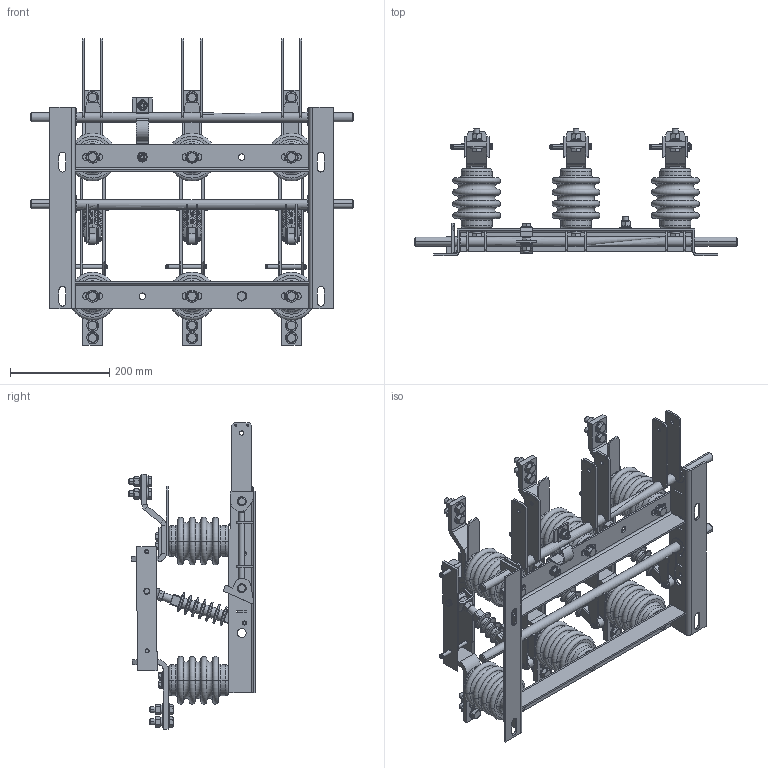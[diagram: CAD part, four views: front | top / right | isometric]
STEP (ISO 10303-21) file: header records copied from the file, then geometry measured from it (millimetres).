
FILE_DESCRIPTION (( 'STEP AP214' ), '1' );
FILE_NAME ('Ðàçúåäèíèòåëü âûñîêîâîëüòíûé ÐÂÇ-101000-II-È2-Ó3.STEP', '2023-02-03T10:50:53', ( '' ), ( '' ), 'SwSTEP 2.0', 'SolidWorks 2018', '' );
FILE_SCHEMA (( 'AUTOMOTIVE_DESIGN' ));
Length unit declared in the file: millimetre
Products named in the file (1): Ðàçúåäèíèòåëü âûñîêîâîëüòíûé ÐÂÇ-101000-II-È2-Ó3
Bounding box: 650 x 256.27 x 617.51 mm (x, y, z)
Volume: 6246029.8 mm3; surface area: 1273893.2 mm2
Topology: 1 solids, 18 shells, 2680 faces, 6397 edges, 3965 vertices
Faces by surface type: plane 1317, cylinder 818, cone 359, torus 186
Full cylindrical faces by diameter (mm): 9.732 x2, 9.786 x2, 12.35 x12, 13.36 x1, 14.572 x4, 15.2 x5, 15.325 x1, 15.733 x1, 17.1 x3, 19.299 x4, 19.723 x4
Entity records: 97863 total; most frequent: CARTESIAN_POINT 36514, DIRECTION 12779, ORIENTED_EDGE 12630, EDGE_CURVE 6315, AXIS2_PLACEMENT_3D 4982, VERTEX_POINT 3928, EDGE_LOOP 3109, LINE 2815
